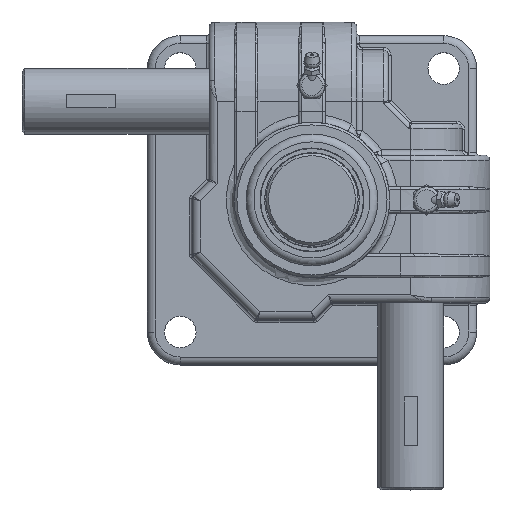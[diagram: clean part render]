
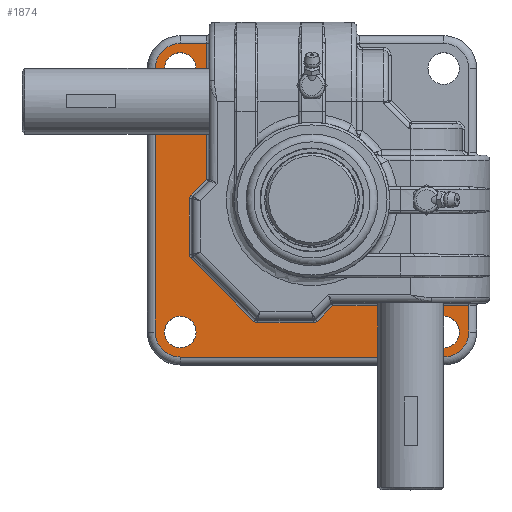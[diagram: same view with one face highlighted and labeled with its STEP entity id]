
A CAD part, top view. The second image highlights one B-rep face of the part: STEP entity #1874.
In plain terms, the highlighted planar face has unit normal (0, 0, 1).
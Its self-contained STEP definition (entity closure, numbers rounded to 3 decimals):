
#1874=ADVANCED_FACE('',(#5360,#5361,#5362,#5363),#5364,.T.);
#5360=FACE_OUTER_BOUND('',#11660,.T.);
#5361=FACE_BOUND('',#11661,.T.);
#5362=FACE_BOUND('',#11662,.T.);
#5363=FACE_BOUND('',#11663,.T.);
#5364=PLANE('',#11664);
#11660=EDGE_LOOP('',(#23213,#23214,#23215,#23216,#23217,#23218,#23219,#23220,#23221,#23222,#23223,#23224,#23225,#23226,#23227,#23228,#23229,#23230));
#11661=EDGE_LOOP('',(#23231));
#11662=EDGE_LOOP('',(#23232));
#11663=EDGE_LOOP('',(#23233));
#11664=AXIS2_PLACEMENT_3D('',#23234,#23235,#23236);
#23213=ORIENTED_EDGE('',*,*,#41700,.T.);
#23214=ORIENTED_EDGE('',*,*,#41699,.T.);
#23215=ORIENTED_EDGE('',*,*,#41334,.T.);
#23216=ORIENTED_EDGE('',*,*,#41135,.T.);
#23217=ORIENTED_EDGE('',*,*,#41701,.T.);
#23218=ORIENTED_EDGE('',*,*,#41702,.T.);
#23219=ORIENTED_EDGE('',*,*,#41461,.T.);
#23220=ORIENTED_EDGE('',*,*,#41388,.T.);
#23221=ORIENTED_EDGE('',*,*,#41384,.T.);
#23222=ORIENTED_EDGE('',*,*,#41703,.T.);
#23223=ORIENTED_EDGE('',*,*,#41358,.T.);
#23224=ORIENTED_EDGE('',*,*,#41704,.T.);
#23225=ORIENTED_EDGE('',*,*,#41705,.T.);
#23226=ORIENTED_EDGE('',*,*,#41706,.T.);
#23227=ORIENTED_EDGE('',*,*,#41250,.T.);
#23228=ORIENTED_EDGE('',*,*,#41707,.T.);
#23229=ORIENTED_EDGE('',*,*,#41644,.T.);
#23230=ORIENTED_EDGE('',*,*,#41708,.T.);
#23231=ORIENTED_EDGE('',*,*,#41709,.F.);
#23232=ORIENTED_EDGE('',*,*,#41710,.F.);
#23233=ORIENTED_EDGE('',*,*,#41711,.F.);
#23234=CARTESIAN_POINT('',(0.0,0.0,-35.0));
#23235=DIRECTION('',(0.,0.,1.0));
#23236=DIRECTION('',(1.0,0.,0.));
#41135=EDGE_CURVE('',#48899,#48904,#48906,.T.);
#41250=EDGE_CURVE('',#49122,#49120,#49123,.T.);
#41334=EDGE_CURVE('',#49272,#48899,#49276,.T.);
#41358=EDGE_CURVE('',#49320,#49318,#49321,.T.);
#41384=EDGE_CURVE('',#49368,#49366,#49369,.T.);
#41388=EDGE_CURVE('',#49375,#49368,#49376,.T.);
#41461=EDGE_CURVE('',#49499,#49375,#49500,.T.);
#41644=EDGE_CURVE('',#49823,#49821,#49824,.T.);
#41699=EDGE_CURVE('',#49910,#49272,#49914,.T.);
#41700=EDGE_CURVE('',#49915,#49910,#49916,.T.);
#41701=EDGE_CURVE('',#48904,#49917,#49918,.T.);
#41702=EDGE_CURVE('',#49917,#49499,#49919,.T.);
#41703=EDGE_CURVE('',#49366,#49320,#49920,.T.);
#41704=EDGE_CURVE('',#49318,#49921,#49922,.T.);
#41705=EDGE_CURVE('',#49921,#49923,#49924,.T.);
#41706=EDGE_CURVE('',#49923,#49122,#49925,.T.);
#41707=EDGE_CURVE('',#49120,#49823,#49926,.T.);
#41708=EDGE_CURVE('',#49821,#49915,#49927,.T.);
#41709=EDGE_CURVE('',#49928,#49928,#49929,.T.);
#41710=EDGE_CURVE('',#49930,#49930,#49931,.T.);
#41711=EDGE_CURVE('',#49932,#49932,#49933,.T.);
#48899=VERTEX_POINT('',#64188);
#48904=VERTEX_POINT('',#64193);
#48906=CIRCLE('',#64195,9.5);
#49120=VERTEX_POINT('',#64763);
#49122=VERTEX_POINT('',#64765);
#49123=LINE('',#64766,#64767);
#49272=VERTEX_POINT('',#65206);
#49276=LINE('',#65211,#65212);
#49318=VERTEX_POINT('',#65280);
#49320=VERTEX_POINT('',#65282);
#49321=LINE('',#65283,#65284);
#49366=VERTEX_POINT('',#65338);
#49368=VERTEX_POINT('',#65340);
#49369=LINE('',#65341,#65342);
#49375=VERTEX_POINT('',#65349);
#49376=LINE('',#65350,#65351);
#49499=VERTEX_POINT('',#65984);
#49500=LINE('',#65985,#65986);
#49821=VERTEX_POINT('',#66753);
#49823=VERTEX_POINT('',#66755);
#49824=LINE('',#66756,#66757);
#49910=VERTEX_POINT('',#66888);
#49914=CIRCLE('',#66892,9.5);
#49915=VERTEX_POINT('',#66893);
#49916=LINE('',#66894,#66895);
#49917=VERTEX_POINT('',#66896);
#49918=LINE('',#66897,#66898);
#49919=CIRCLE('',#66899,9.5);
#49920=CIRCLE('',#66900,2.0);
#49921=VERTEX_POINT('',#66901);
#49922=CIRCLE('',#66902,2.0);
#49923=VERTEX_POINT('',#66903);
#49924=LINE('',#66904,#66905);
#49925=CIRCLE('',#66906,2.0);
#49926=CIRCLE('',#66907,2.0);
#49927=LINE('',#66908,#66909);
#49928=VERTEX_POINT('',#66910);
#49929=CIRCLE('',#66911,6.0);
#49930=VERTEX_POINT('',#66912);
#49931=CIRCLE('',#66913,6.0);
#49932=VERTEX_POINT('',#66914);
#49933=CIRCLE('',#66915,6.0);
#64188=CARTESIAN_POINT('',(-59.5,-50.0,-35.0));
#64193=CARTESIAN_POINT('',(-50.,-59.5,-35.0));
#64195=AXIS2_PLACEMENT_3D('',#82618,#82619,#82620);
#64763=CARTESIAN_POINT('',(-46.5,0.586,-35.0));
#64765=CARTESIAN_POINT('',(-46.5,-20.62,-35.0));
#64766=CARTESIAN_POINT('',(-46.5,-10.017,-35.0));
#64767=VECTOR('',#82777,1.0);
#65206=CARTESIAN_POINT('',(-59.5,50.,-35.0));
#65211=CARTESIAN_POINT('',(-59.5,0.0,-35.0));
#65212=VECTOR('',#82914,1.0);
#65280=CARTESIAN_POINT('',(-20.62,-46.5,-35.0));
#65282=CARTESIAN_POINT('',(0.586,-46.5,-35.0));
#65283=CARTESIAN_POINT('',(-10.017,-46.5,-35.0));
#65284=VECTOR('',#82957,1.0);
#65338=CARTESIAN_POINT('',(2.0,-45.914,-35.0));
#65340=CARTESIAN_POINT('',(7.914,-40.0,-35.0));
#65341=CARTESIAN_POINT('',(4.957,-42.957,-35.0));
#65342=VECTOR('',#83015,1.0);
#65349=CARTESIAN_POINT('',(59.5,-40.0,-35.0));
#65350=CARTESIAN_POINT('',(33.707,-40.0,-35.0));
#65351=VECTOR('',#83023,1.0);
#65984=CARTESIAN_POINT('',(59.5,-50.,-35.0));
#65985=CARTESIAN_POINT('',(59.5,0.0,-35.0));
#65986=VECTOR('',#83118,1.0);
#66753=CARTESIAN_POINT('',(-40.0,7.914,-35.0));
#66755=CARTESIAN_POINT('',(-45.914,2.,-35.0));
#66756=CARTESIAN_POINT('',(-42.957,4.957,-35.0));
#66757=VECTOR('',#83432,1.0);
#66888=CARTESIAN_POINT('',(-50.0,59.5,-35.0));
#66892=AXIS2_PLACEMENT_3D('',#83533,#83534,#83535);
#66893=CARTESIAN_POINT('',(-40.0,59.5,-35.0));
#66894=CARTESIAN_POINT('',(0.0,59.5,-35.0));
#66895=VECTOR('',#83536,1.0);
#66896=CARTESIAN_POINT('',(50.0,-59.5,-35.0));
#66897=CARTESIAN_POINT('',(0.0,-59.5,-35.0));
#66898=VECTOR('',#83537,1.0);
#66899=AXIS2_PLACEMENT_3D('',#83538,#83539,#83540);
#66900=AXIS2_PLACEMENT_3D('',#83541,#83542,#83543);
#66901=CARTESIAN_POINT('',(-22.034,-45.914,-35.0));
#66902=AXIS2_PLACEMENT_3D('',#83544,#83545,#83546);
#66903=CARTESIAN_POINT('',(-45.914,-22.034,-35.0));
#66904=CARTESIAN_POINT('',(-33.974,-33.974,-35.0));
#66905=VECTOR('',#83547,1.0);
#66906=AXIS2_PLACEMENT_3D('',#83548,#83549,#83550);
#66907=AXIS2_PLACEMENT_3D('',#83551,#83552,#83553);
#66908=CARTESIAN_POINT('',(-40.0,33.707,-35.0));
#66909=VECTOR('',#83554,1.0);
#66910=CARTESIAN_POINT('',(56.0,-50.0,-35.0));
#66911=AXIS2_PLACEMENT_3D('',#83555,#83556,#83557);
#66912=CARTESIAN_POINT('',(-44.0,-50.0,-35.0));
#66913=AXIS2_PLACEMENT_3D('',#83558,#83559,#83560);
#66914=CARTESIAN_POINT('',(-44.0,50.0,-35.0));
#66915=AXIS2_PLACEMENT_3D('',#83561,#83562,#83563);
#82618=CARTESIAN_POINT('',(-50.0,-50.0,-35.0));
#82619=DIRECTION('',(0.0,0.0,1.0));
#82620=DIRECTION('',(1.0,0.0,0.0));
#82777=DIRECTION('',(0.0,1.0,0.));
#82914=DIRECTION('',(0.0,-1.0,0.));
#82957=DIRECTION('',(-1.0,0.0,0.0));
#83015=DIRECTION('',(-0.707,-0.707,0.0));
#83023=DIRECTION('',(-1.0,0.0,0.));
#83118=DIRECTION('',(0.0,1.0,0.));
#83432=DIRECTION('',(0.707,0.707,0.0));
#83533=CARTESIAN_POINT('',(-50.0,50.0,-35.0));
#83534=DIRECTION('',(0.,0.,1.0));
#83535=DIRECTION('',(1.0,0.,0.));
#83536=DIRECTION('',(-1.0,0.0,0.));
#83537=DIRECTION('',(1.0,0.0,0.));
#83538=CARTESIAN_POINT('',(50.0,-50.0,-35.0));
#83539=DIRECTION('',(0.,0.,1.0));
#83540=DIRECTION('',(1.0,0.,0.));
#83541=CARTESIAN_POINT('',(0.586,-44.5,-35.0));
#83542=DIRECTION('',(0.,0.,-1.0));
#83543=DIRECTION('',(1.0,0.,0.));
#83544=CARTESIAN_POINT('',(-20.62,-44.5,-35.0));
#83545=DIRECTION('',(0.,0.,-1.0));
#83546=DIRECTION('',(1.0,0.,0.));
#83547=DIRECTION('',(-0.707,0.707,0.));
#83548=CARTESIAN_POINT('',(-44.5,-20.62,-35.0));
#83549=DIRECTION('',(0.,0.,-1.0));
#83550=DIRECTION('',(1.0,0.,0.));
#83551=CARTESIAN_POINT('',(-44.5,0.586,-35.0));
#83552=DIRECTION('',(0.,0.,-1.0));
#83553=DIRECTION('',(1.0,0.,0.));
#83554=DIRECTION('',(0.0,1.0,0.));
#83555=CARTESIAN_POINT('',(50.0,-50.0,-35.0));
#83556=DIRECTION('',(0.,0.,1.0));
#83557=DIRECTION('',(1.0,0.,0.));
#83558=CARTESIAN_POINT('',(-50.0,-50.0,-35.0));
#83559=DIRECTION('',(0.,0.,1.0));
#83560=DIRECTION('',(1.0,0.,0.));
#83561=CARTESIAN_POINT('',(-50.0,50.0,-35.0));
#83562=DIRECTION('',(0.,0.,1.0));
#83563=DIRECTION('',(1.0,0.,0.));
